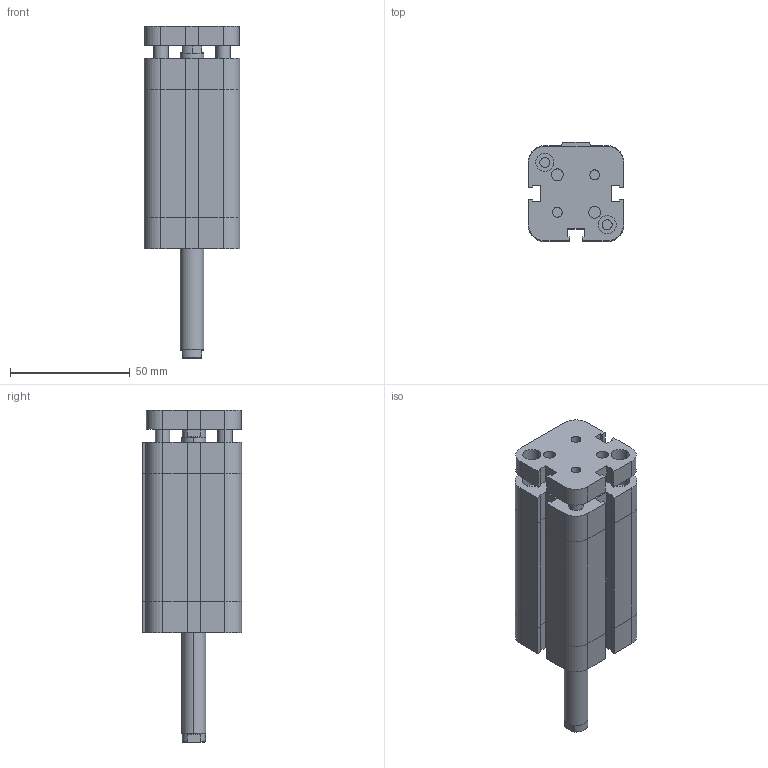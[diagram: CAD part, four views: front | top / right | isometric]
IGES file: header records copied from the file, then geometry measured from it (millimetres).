
Global section: file name: No Iges File Name specified; native system: Autodesk Inventor 2009; preprocessor: AutoDesk Inventor Iges Exporter R2009; author: maffial1; date: 20090420.202023; units: millimetre
Bounding box: 40 x 41.5 x 138.5 mm (x, y, z)
Volume: 131114.2 mm3; surface area: 34564.3 mm2
Topology: 2 solids, 2 shells, 241 faces, 570 edges, 354 vertices
Faces by surface type: plane 135, bspline 72, cylinder 26, cone 8
